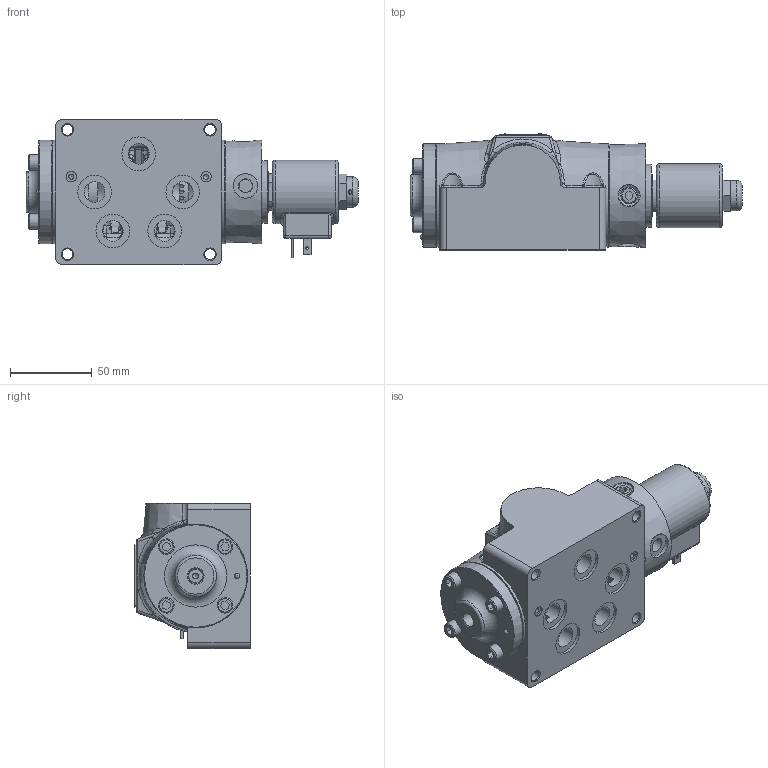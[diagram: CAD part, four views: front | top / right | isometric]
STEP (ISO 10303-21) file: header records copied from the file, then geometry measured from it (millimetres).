
FILE_DESCRIPTION(/* description */ (''),/* implementation_level */ '2;1');
FILE_NAME(/* name */ 'D:\Website Files\stp\Valves\Classic\SR\SR4PEDL.stp',/* time_stamp */ '2016-02-15T23:50:09-05:00',/* author */ ('RMcKenna'),/* organization */ (''),/* preprocessor_version */ 'ST-DEVELOPER v15.6',/* originating_system */ 'Autodesk Inventor 2015',/* authorisation */ '');
FILE_SCHEMA (('AUTOMOTIVE_DESIGN { 1 0 10303 214 3 1 1 }'));
Products named in the file (1): Part116
Bounding box: 203.3 x 71.21 x 88.9 mm (x, y, z)
Volume: 589547.9 mm3; surface area: 127462.7 mm2
Topology: 1 solids, 27 shells, 1705 faces, 4000 edges, 2466 vertices
Faces by surface type: plane 580, cylinder 337, cone 322, bspline 315, torus 128, sphere 23
Full cylindrical faces by diameter (mm): 1.041 x1, 1.6 x3, 2.07 x2, 2.261 x2, 2.381 x3, 2.54 x1, 2.778 x2, 3.048 x3, 3.175 x10, 3.962 x3, 4.978 x8, 5.639 x1, 6.35 x10, 6.629 x4, 7.137 x6, 7.144 x8, 9.462 x2, 9.525 x10, 11.328 x2, 11.43 x1, 11.836 x1, 12.598 x1, 12.7 x6, 12.827 x2, 13.462 x1, 13.494 x1, 14.986 x1, 15.081 x1, 16.51 x1, 17.475 x1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
Entity records: 60199 total; most frequent: CARTESIAN_POINT 23725, ORIENTED_EDGE 7232, DIRECTION 6359, EDGE_CURVE 3616, AXIS2_PLACEMENT_3D 2494, VERTEX_POINT 2364, EDGE_LOOP 2164, FACE_OUTER_BOUND 1704
